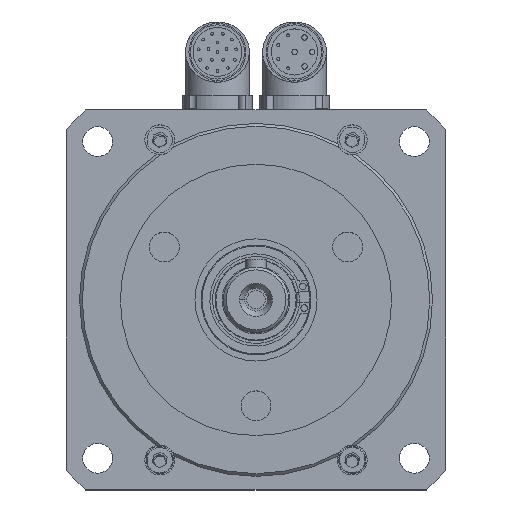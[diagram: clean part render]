
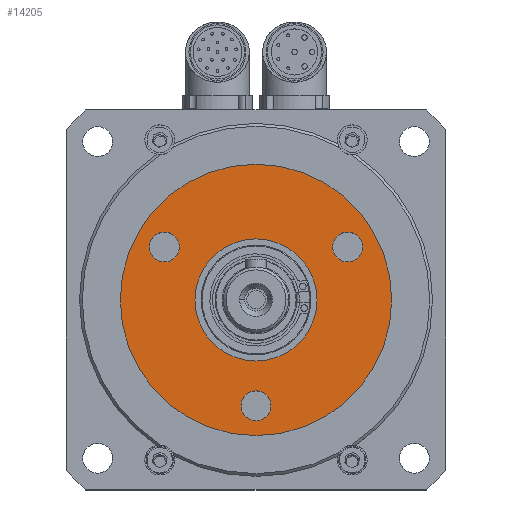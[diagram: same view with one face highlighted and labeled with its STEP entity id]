
A CAD part, top view. The second image highlights one B-rep face of the part: STEP entity #14205.
In plain terms, the highlighted planar face has unit normal (0, 0, 1).
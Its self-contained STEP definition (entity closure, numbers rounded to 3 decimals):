
#273 = CIRCLE ( 'NONE', #12570, 5.5 ) ;
#275 = CIRCLE ( 'NONE', #12572, 5.5 ) ;
#277 = CIRCLE ( 'NONE', #12575, 50. ) ;
#281 = CIRCLE ( 'NONE', #12573, 5.5 ) ;
#1620 = EDGE_CURVE ( 'NONE', #10163, #10164, #273, .T. ) ;
#1621 = EDGE_CURVE ( 'NONE', #10167, #10168, #275, .T. ) ;
#1623 = EDGE_CURVE ( 'NONE', #10156, #10157, #277, .T. ) ;
#1625 = EDGE_CURVE ( 'NONE', #10181, #10174, #281, .T. ) ;
#4201 = AXIS2_PLACEMENT_3D ( 'NONE', #9313, #9317, #9318 ) ;
#4607 = CARTESIAN_POINT ( 'NONE',  ( -50., 0., 21.5 ) ) ;
#4608 = CARTESIAN_POINT ( 'NONE',  ( 50., 0., 21.5 ) ) ;
#4614 = CARTESIAN_POINT ( 'NONE',  ( -39.275, 19.5, 21.5 ) ) ;
#4615 = CARTESIAN_POINT ( 'NONE',  ( -28.275, 19.5, 21.5 ) ) ;
#4618 = CARTESIAN_POINT ( 'NONE',  ( 28.275, 19.5, 21.5 ) ) ;
#4619 = CARTESIAN_POINT ( 'NONE',  ( 39.275, 19.5, 21.5 ) ) ;
#4625 = CARTESIAN_POINT ( 'NONE',  ( 5.5, -39., 21.5 ) ) ;
#4631 = CARTESIAN_POINT ( 'NONE',  ( -22.5, 0., 21.5 ) ) ;
#4632 = CARTESIAN_POINT ( 'NONE',  ( -5.5, -39., 21.5 ) ) ;
#4634 = CARTESIAN_POINT ( 'NONE',  ( 22.5, 0., 21.5 ) ) ;
#6502 = CARTESIAN_POINT ( 'NONE',  ( -33.775, 19.5, 21.5 ) ) ;
#6505 = DIRECTION ( 'NONE',  ( 0., 0., 1. ) ) ;
#6507 = DIRECTION ( 'NONE',  ( 1., 0., 0. ) ) ;
#6509 = CARTESIAN_POINT ( 'NONE',  ( 33.775, 19.5, 21.5 ) ) ;
#6512 = DIRECTION ( 'NONE',  ( 0., 0., 1. ) ) ;
#6514 = DIRECTION ( 'NONE',  ( 1., 0., 0. ) ) ;
#6516 = CARTESIAN_POINT ( 'NONE',  ( 0., 0., 21.5 ) ) ;
#6523 = DIRECTION ( 'NONE',  ( 0., 0., 1. ) ) ;
#6525 = DIRECTION ( 'NONE',  ( 1., 0., 0. ) ) ;
#6533 = CARTESIAN_POINT ( 'NONE',  ( 0., -39., 21.5 ) ) ;
#6536 = DIRECTION ( 'NONE',  ( 0., 0., 1. ) ) ;
#6538 = DIRECTION ( 'NONE',  ( 1., 0., 0. ) ) ;
#7149 = ORIENTED_EDGE ( 'NONE', *, *, #11199, .F. ) ;
#7150 = ORIENTED_EDGE ( 'NONE', *, *, #1620, .F. ) ;
#7151 = ORIENTED_EDGE ( 'NONE', *, *, #11204, .F. ) ;
#7152 = ORIENTED_EDGE ( 'NONE', *, *, #1621, .F. ) ;
#7153 = ORIENTED_EDGE ( 'NONE', *, *, #11198, .F. ) ;
#7154 = ORIENTED_EDGE ( 'NONE', *, *, #1625, .F. ) ;
#7155 = ORIENTED_EDGE ( 'NONE', *, *, #11202, .T. ) ;
#7156 = ORIENTED_EDGE ( 'NONE', *, *, #1623, .T. ) ;
#7157 = ORIENTED_EDGE ( 'NONE', *, *, #11200, .F. ) ;
#7158 = ORIENTED_EDGE ( 'NONE', *, *, #11194, .F. ) ;
#9310 = PLANE ( 'NONE',  #4201 ) ;
#9313 = CARTESIAN_POINT ( 'NONE',  ( 0., 50., 21.5 ) ) ;
#9317 = DIRECTION ( 'NONE',  ( 0., 0., 1. ) ) ;
#9318 = DIRECTION ( 'NONE',  ( 1., 0., 0. ) ) ;
#10156 = VERTEX_POINT ( 'NONE', #4607 ) ;
#10157 = VERTEX_POINT ( 'NONE', #4608 ) ;
#10163 = VERTEX_POINT ( 'NONE', #4614 ) ;
#10164 = VERTEX_POINT ( 'NONE', #4615 ) ;
#10167 = VERTEX_POINT ( 'NONE', #4618 ) ;
#10168 = VERTEX_POINT ( 'NONE', #4619 ) ;
#10174 = VERTEX_POINT ( 'NONE', #4625 ) ;
#10180 = VERTEX_POINT ( 'NONE', #4631 ) ;
#10181 = VERTEX_POINT ( 'NONE', #4632 ) ;
#10183 = VERTEX_POINT ( 'NONE', #4634 ) ;
#10302 = AXIS2_PLACEMENT_3D ( 'NONE', #12899, #12900, #12901 ) ;
#10304 = AXIS2_PLACEMENT_3D ( 'NONE', #12922, #12924, #12925 ) ;
#10305 = AXIS2_PLACEMENT_3D ( 'NONE', #12906, #12915, #12916 ) ;
#10306 = AXIS2_PLACEMENT_3D ( 'NONE', #12902, #12912, #12913 ) ;
#10307 = AXIS2_PLACEMENT_3D ( 'NONE', #12911, #12917, #12918 ) ;
#10311 = AXIS2_PLACEMENT_3D ( 'NONE', #12923, #12930, #12931 ) ;
#11072 = FACE_BOUND ( 'NONE', #15763, .T. ) ;
#11074 = FACE_BOUND ( 'NONE', #15773, .T. ) ;
#11078 = FACE_BOUND ( 'NONE', #15772, .T. ) ;
#11079 = FACE_BOUND ( 'NONE', #15776, .T. ) ;
#11080 = FACE_OUTER_BOUND ( 'NONE', #15073, .T. ) ;
#11194 = EDGE_CURVE ( 'NONE', #10180, #10183, #13858, .T. ) ;
#11198 = EDGE_CURVE ( 'NONE', #10174, #10181, #13861, .T. ) ;
#11199 = EDGE_CURVE ( 'NONE', #10164, #10163, #13862, .T. ) ;
#11200 = EDGE_CURVE ( 'NONE', #10183, #10180, #13863, .T. ) ;
#11202 = EDGE_CURVE ( 'NONE', #10157, #10156, #13865, .T. ) ;
#11204 = EDGE_CURVE ( 'NONE', #10168, #10167, #13869, .T. ) ;
#12570 = AXIS2_PLACEMENT_3D ( 'NONE', #6502, #6505, #6507 ) ;
#12572 = AXIS2_PLACEMENT_3D ( 'NONE', #6509, #6512, #6514 ) ;
#12573 = AXIS2_PLACEMENT_3D ( 'NONE', #6533, #6536, #6538 ) ;
#12575 = AXIS2_PLACEMENT_3D ( 'NONE', #6516, #6523, #6525 ) ;
#12899 = CARTESIAN_POINT ( 'NONE',  ( 0., 0., 21.5 ) ) ;
#12900 = DIRECTION ( 'NONE',  ( 0., 0., 1. ) ) ;
#12901 = DIRECTION ( 'NONE',  ( 1., 0., 0. ) ) ;
#12902 = CARTESIAN_POINT ( 'NONE',  ( 0., -39., 21.5 ) ) ;
#12906 = CARTESIAN_POINT ( 'NONE',  ( -33.775, 19.5, 21.5 ) ) ;
#12911 = CARTESIAN_POINT ( 'NONE',  ( 0., 0., 21.5 ) ) ;
#12912 = DIRECTION ( 'NONE',  ( 0., 0., 1. ) ) ;
#12913 = DIRECTION ( 'NONE',  ( 1., 0., 0. ) ) ;
#12915 = DIRECTION ( 'NONE',  ( 0., 0., 1. ) ) ;
#12916 = DIRECTION ( 'NONE',  ( 1., 0., 0. ) ) ;
#12917 = DIRECTION ( 'NONE',  ( 0., 0., 1. ) ) ;
#12918 = DIRECTION ( 'NONE',  ( 1., 0., 0. ) ) ;
#12922 = CARTESIAN_POINT ( 'NONE',  ( 0., 0., 21.5 ) ) ;
#12923 = CARTESIAN_POINT ( 'NONE',  ( 33.775, 19.5, 21.5 ) ) ;
#12924 = DIRECTION ( 'NONE',  ( 0., 0., 1. ) ) ;
#12925 = DIRECTION ( 'NONE',  ( 1., 0., 0. ) ) ;
#12930 = DIRECTION ( 'NONE',  ( 0., 0., 1. ) ) ;
#12931 = DIRECTION ( 'NONE',  ( 1., 0., 0. ) ) ;
#13858 = CIRCLE ( 'NONE', #10302, 22.5 ) ;
#13861 = CIRCLE ( 'NONE', #10306, 5.5 ) ;
#13862 = CIRCLE ( 'NONE', #10305, 5.5 ) ;
#13863 = CIRCLE ( 'NONE', #10307, 22.5 ) ;
#13865 = CIRCLE ( 'NONE', #10304, 50. ) ;
#13869 = CIRCLE ( 'NONE', #10311, 5.5 ) ;
#14205 = ADVANCED_FACE ( 'NONE', ( #11072, #11078, #11079, #11080, #11074 ), #9310, .T. ) ;
#15073 = EDGE_LOOP ( 'NONE', ( #7155, #7156 ) ) ;
#15763 = EDGE_LOOP ( 'NONE', ( #7149, #7150 ) ) ;
#15772 = EDGE_LOOP ( 'NONE', ( #7151, #7152 ) ) ;
#15773 = EDGE_LOOP ( 'NONE', ( #7157, #7158 ) ) ;
#15776 = EDGE_LOOP ( 'NONE', ( #7153, #7154 ) ) ;
